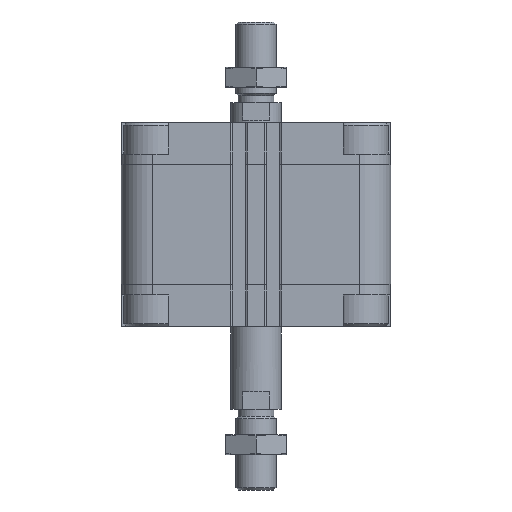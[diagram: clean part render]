
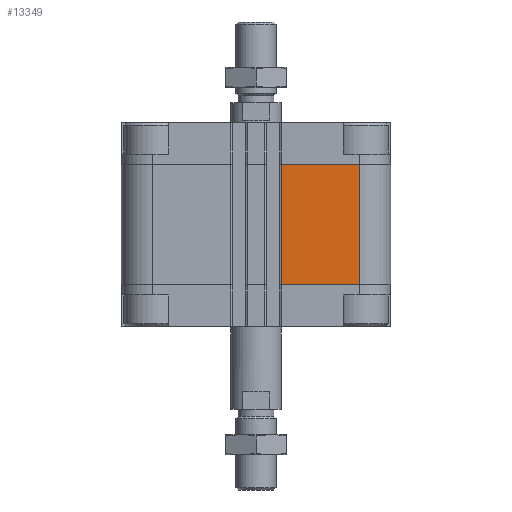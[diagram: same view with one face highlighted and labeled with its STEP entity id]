
A CAD part, front view. The second image highlights one B-rep face of the part: STEP entity #13349.
In plain terms, the highlighted planar face has unit normal (0, -1, 0).
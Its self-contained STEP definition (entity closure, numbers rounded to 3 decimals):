
#92 = DIRECTION ( 'NONE',  ( 1., 0., 0. ) ) ;
#750 = EDGE_CURVE ( 'NONE', #18273, #4425, #869, .T. ) ;
#778 = CARTESIAN_POINT ( 'NONE',  ( 41., -53.5, -64.5 ) ) ;
#869 = LINE ( 'NONE', #15256, #6798 ) ;
#991 = DIRECTION ( 'NONE',  ( 0., 0., 1. ) ) ;
#1182 = ORIENTED_EDGE ( 'NONE', *, *, #21811, .T. ) ;
#1442 = CARTESIAN_POINT ( 'NONE',  ( 9.95, -53.5, -64.5 ) ) ;
#2808 = VECTOR ( 'NONE', #92, 1000. ) ;
#4175 = EDGE_CURVE ( 'NONE', #4425, #9351, #5637, .T. ) ;
#4425 = VERTEX_POINT ( 'NONE', #6672 ) ;
#4923 = FACE_OUTER_BOUND ( 'NONE', #7607, .T. ) ;
#5637 = LINE ( 'NONE', #12398, #2808 ) ;
#6220 = DIRECTION ( 'NONE',  ( 1., 0., 0. ) ) ;
#6672 = CARTESIAN_POINT ( 'NONE',  ( 9.95, -53.5, -16.5 ) ) ;
#6798 = VECTOR ( 'NONE', #991, 1000. ) ;
#7607 = EDGE_LOOP ( 'NONE', ( #22722, #9336, #13423, #1182 ) ) ;
#7963 = CARTESIAN_POINT ( 'NONE',  ( 9.95, -53.5, -64.5 ) ) ;
#8053 = CARTESIAN_POINT ( 'NONE',  ( 41., -53.5, -16.5 ) ) ;
#9336 = ORIENTED_EDGE ( 'NONE', *, *, #750, .F. ) ;
#9351 = VERTEX_POINT ( 'NONE', #8053 ) ;
#9461 = CARTESIAN_POINT ( 'NONE',  ( 41., -53.5, -64.5 ) ) ;
#9712 = LINE ( 'NONE', #7963, #16062 ) ;
#11460 = DIRECTION ( 'NONE',  ( 0., 0., 1. ) ) ;
#12008 = PLANE ( 'NONE',  #21987 ) ;
#12149 = VERTEX_POINT ( 'NONE', #9461 ) ;
#12398 = CARTESIAN_POINT ( 'NONE',  ( 9.95, -53.5, -16.5 ) ) ;
#12586 = DIRECTION ( 'NONE',  ( 0., -1., 0. ) ) ;
#12864 = EDGE_CURVE ( 'NONE', #18273, #12149, #9712, .T. ) ;
#13349 = ADVANCED_FACE ( 'NONE', ( #4923 ), #12008, .T. ) ;
#13423 = ORIENTED_EDGE ( 'NONE', *, *, #12864, .T. ) ;
#14662 = VECTOR ( 'NONE', #11460, 1000. ) ;
#15256 = CARTESIAN_POINT ( 'NONE',  ( 9.95, -53.5, -64.5 ) ) ;
#16062 = VECTOR ( 'NONE', #6220, 1000. ) ;
#17913 = DIRECTION ( 'NONE',  ( -1., 0., 0. ) ) ;
#18273 = VERTEX_POINT ( 'NONE', #20224 ) ;
#20224 = CARTESIAN_POINT ( 'NONE',  ( 9.95, -53.5, -64.5 ) ) ;
#21811 = EDGE_CURVE ( 'NONE', #12149, #9351, #22143, .T. ) ;
#21987 = AXIS2_PLACEMENT_3D ( 'NONE', #1442, #12586, #17913 ) ;
#22143 = LINE ( 'NONE', #778, #14662 ) ;
#22722 = ORIENTED_EDGE ( 'NONE', *, *, #4175, .F. ) ;
